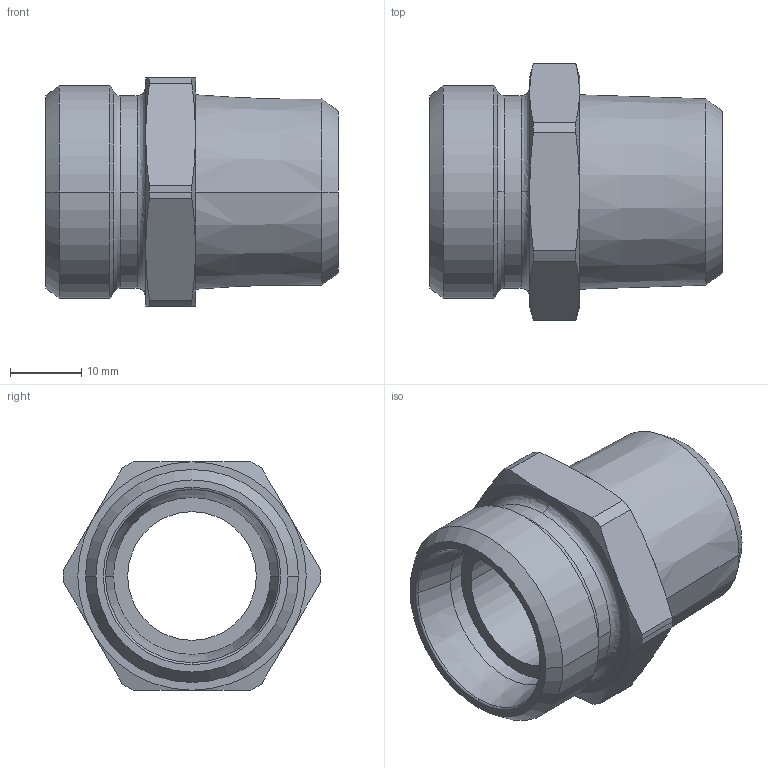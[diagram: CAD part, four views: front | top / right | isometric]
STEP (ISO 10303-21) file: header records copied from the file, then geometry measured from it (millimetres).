
FILE_DESCRIPTION((''),'2;1');
FILE_NAME('101810.stp','2007-10-30T16:16:02',(''),(''),'AutoCAD STEP 2000i','AutoCAD 2000i',', , ');
FILE_SCHEMA(('CONFIG_CONTROL_DESIGN'));
Length unit declared in the file: millimetre
Products named in the file (2): 101810.0; CHIAVE SMUSSATA#0
Assembly tree (1 placements, depth 2):
  101810.0
    CHIAVE SMUSSATA#0
Bounding box: 41 x 36 x 32 mm (x, y, z)
Volume: 14487.1 mm3; surface area: 7135.1 mm2
Topology: 1 solids, 1 shells, 59 faces, 143 edges, 89 vertices
Faces by surface type: cone 24, cylinder 16, plane 11, bspline 6, torus 2
Entity records: 2079 total; most frequent: CARTESIAN_POINT 605, DIRECTION 314, ORIENTED_EDGE 286, EDGE_CURVE 143, AXIS2_PLACEMENT_3D 140, VERTEX_POINT 89, CIRCLE 85, EDGE_LOOP 64
